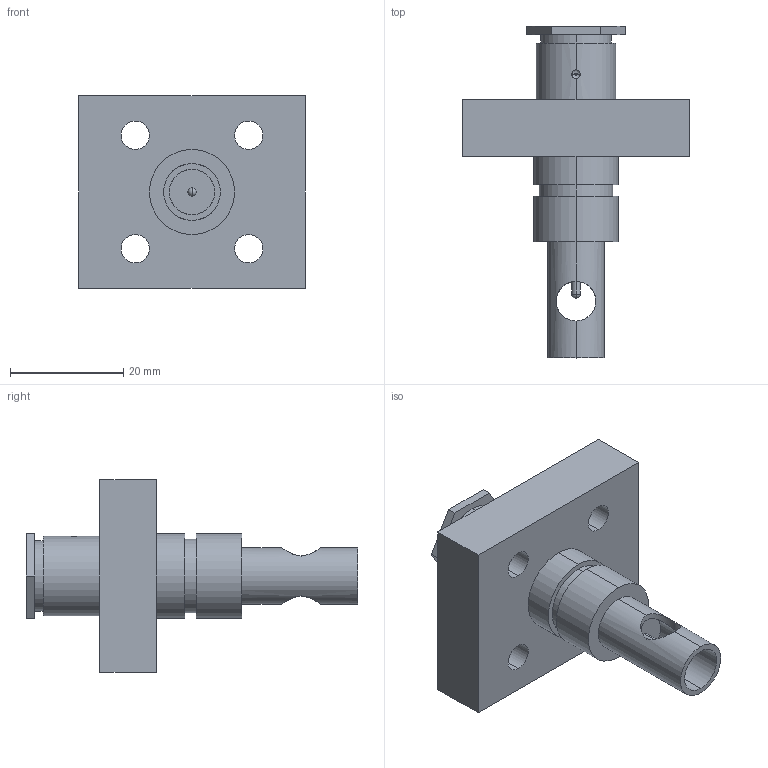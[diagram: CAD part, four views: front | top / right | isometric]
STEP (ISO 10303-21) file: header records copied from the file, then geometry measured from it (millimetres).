
FILE_DESCRIPTION (( 'STEP AP203' ), '1' );
FILE_NAME ('F2 Sond1.step', '2023-08-22T12:36:18', ( '' ), ( '' ), 'SwSTEP 2.0', 'SolidWorks 2022', '' );
FILE_SCHEMA (( 'CONFIG_CONTROL_DESIGN' ));
Length unit declared in the file: millimetre
Products named in the file (1): F2 Sond1
Bounding box: 40 x 58.5 x 34 mm (x, y, z)
Volume: 17288.4 mm3; surface area: 7452.8 mm2
Topology: 1 solids, 1 shells, 68 faces, 171 edges, 113 vertices
Faces by surface type: cylinder 39, plane 25, bspline 2, sphere 2
Entity records: 2686 total; most frequent: CARTESIAN_POINT 949, DIRECTION 351, ORIENTED_EDGE 334, EDGE_CURVE 167, AXIS2_PLACEMENT_3D 139, VERTEX_POINT 111, EDGE_LOOP 90, VECTOR 73
